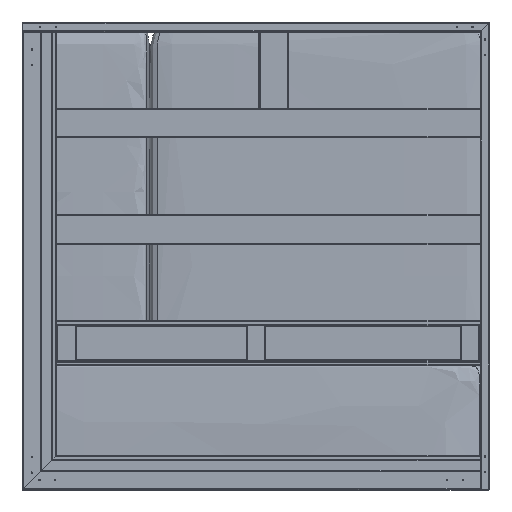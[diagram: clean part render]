
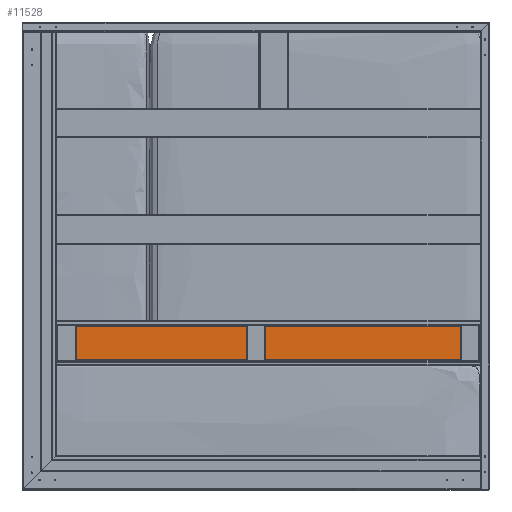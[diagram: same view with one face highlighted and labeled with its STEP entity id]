
A CAD part, front view. The second image highlights one B-rep face of the part: STEP entity #11528.
In plain terms, the highlighted planar face has unit normal (0, -1, 0).
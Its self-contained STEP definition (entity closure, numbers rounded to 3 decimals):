
#882=PLANE('',#13478);
#1474=FACE_OUTER_BOUND('',#2174,.T.);
#2174=EDGE_LOOP('',(#10577,#10578,#10579,#10580));
#3186=LINE('',#20289,#4198);
#3188=LINE('',#20306,#4200);
#3192=LINE('',#20319,#4204);
#3194=LINE('',#20322,#4206);
#4198=VECTOR('',#16904,10.);
#4200=VECTOR('',#16924,10.);
#4204=VECTOR('',#16940,10.);
#4206=VECTOR('',#16944,10.);
#5745=VERTEX_POINT('',#20270);
#5751=VERTEX_POINT('',#20284);
#5755=VERTEX_POINT('',#20298);
#5760=VERTEX_POINT('',#20314);
#7345=EDGE_CURVE('',#5745,#5751,#3186,.T.);
#7353=EDGE_CURVE('',#5755,#5745,#3188,.T.);
#7360=EDGE_CURVE('',#5751,#5760,#3192,.T.);
#7362=EDGE_CURVE('',#5760,#5755,#3194,.T.);
#10577=ORIENTED_EDGE('',*,*,#7345,.F.);
#10578=ORIENTED_EDGE('',*,*,#7353,.F.);
#10579=ORIENTED_EDGE('',*,*,#7362,.F.);
#10580=ORIENTED_EDGE('',*,*,#7360,.F.);
#11528=ADVANCED_FACE('',(#1474),#882,.F.);
#13478=AXIS2_PLACEMENT_3D('',#20345,#16975,#16976);
#16904=DIRECTION('',(0.,0.,-1.));
#16924=DIRECTION('',(1.,0.,0.));
#16940=DIRECTION('',(-1.,0.,0.));
#16944=DIRECTION('',(0.,0.,1.));
#16975=DIRECTION('center_axis',(0.,1.,0.));
#16976=DIRECTION('ref_axis',(0.,0.,1.));
#20270=CARTESIAN_POINT('',(428.,0.,33.5));
#20284=CARTESIAN_POINT('',(428.,0.,-33.5));
#20289=CARTESIAN_POINT('',(428.,0.,17.));
#20298=CARTESIAN_POINT('',(-428.,0.,33.5));
#20306=CARTESIAN_POINT('',(-214.25,0.,33.5));
#20314=CARTESIAN_POINT('',(-428.,0.,-33.5));
#20319=CARTESIAN_POINT('',(214.25,0.,-33.5));
#20322=CARTESIAN_POINT('',(-428.,0.,-17.));
#20345=CARTESIAN_POINT('Origin',(0.,0.,0.));
